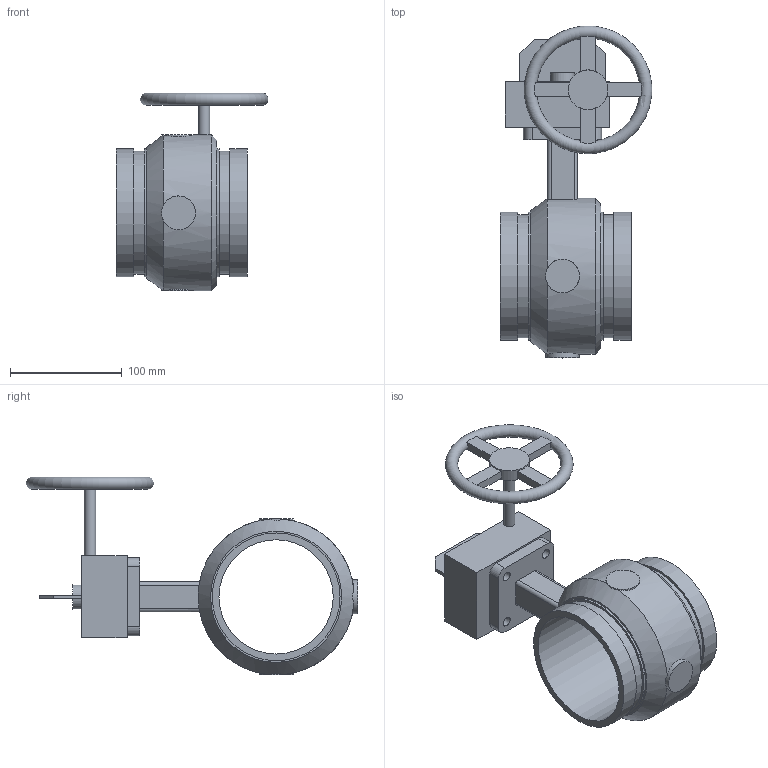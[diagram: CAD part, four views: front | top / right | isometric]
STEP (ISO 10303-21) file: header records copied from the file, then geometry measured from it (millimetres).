
FILE_DESCRIPTION(/* description */ ('VIC FP VALVE BUTTERFLY HP SERIES 766 (OGS)'),/* implementation_level */ '2;1');
FILE_NAME(/* name */ 'C:\Files for Export\766\Victaulic_EU_FP_Vlv Btfl HP_Series 766 (OGS)\Victaulic_EU_FP_Vlv Btfl HP_Series 766 (OGS)_4 (100).stp',/* time_stamp */ '2024-06-27T12:46:33+02:00',/* author */ ('cps_temp'),/* organization */ ('Victaulic'),/* preprocessor_version */ 'ST-DEVELOPER v18.1',/* originating_system */ 'Autodesk Inventor 2020',/* authorisation */ '');
FILE_SCHEMA (('AUTOMOTIVE_DESIGN { 1 0 10303 214 3 1 1 }'));
Length unit declared in the file: inch
Products named in the file (1): 766-04.0
Bounding box: 135.89 x 296.87 x 177.04 mm (x, y, z)
Volume: 935616.1 mm3; surface area: 164283.3 mm2
Topology: 1 solids, 2 shells, 91 faces, 241 edges, 164 vertices
Faces by surface type: plane 59, cylinder 29, cone 2, torus 1
Full cylindrical faces by diameter (mm): 8.636 x4, 10.16 x1, 10.922 x1, 30.226 x3, 35.56 x1, 55.118 x1, 102.26 x1, 110.084 x2, 114.3 x4, 139.7 x1
Entity records: 3341 total; most frequent: CARTESIAN_POINT 834, DIRECTION 494, ORIENTED_EDGE 482, EDGE_CURVE 241, AXIS2_PLACEMENT_3D 191, VERTEX_POINT 164, EDGE_LOOP 113, LINE 112
